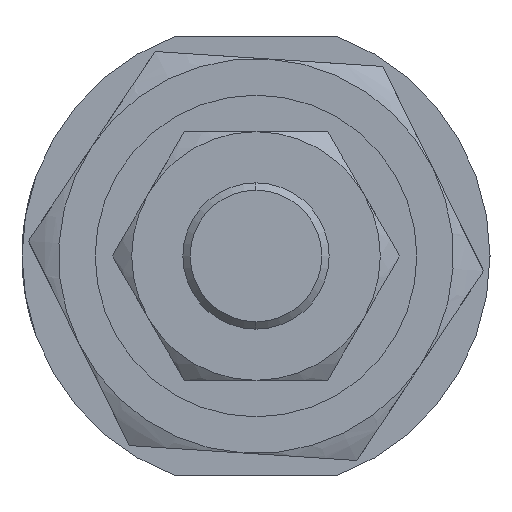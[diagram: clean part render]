
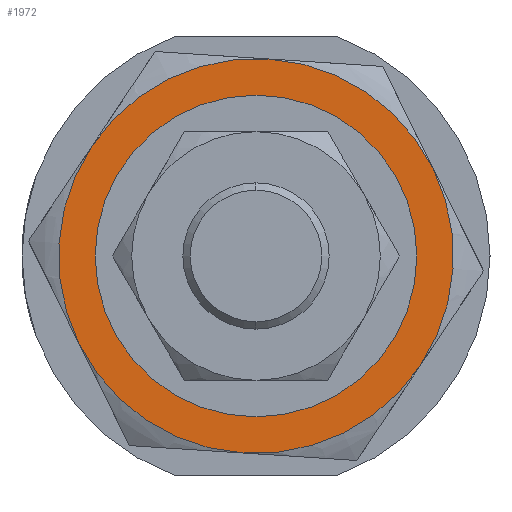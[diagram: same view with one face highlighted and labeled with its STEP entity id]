
A CAD part, left-side view. The second image highlights one B-rep face of the part: STEP entity #1972.
In plain terms, the highlighted planar face has unit normal (-1, 0, 0) as drawn and (0, 0, -1) by its records, which use the part's own axes.
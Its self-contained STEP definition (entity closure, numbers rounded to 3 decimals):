
#32 = CIRCLE ( 'NONE', #2925, 13.5 ) ;
#45 = CARTESIAN_POINT ( 'NONE',  ( 13.5, 0., -5. ) ) ;
#53 = CARTESIAN_POINT ( 'NONE',  ( -13.5, 0., -5. ) ) ;
#87 = EDGE_CURVE ( 'NONE', #1743, #1116, #2633, .T. ) ;
#129 = DIRECTION ( 'NONE',  ( 0., 0., 1. ) ) ;
#219 = DIRECTION ( 'NONE',  ( 1., 0., 0. ) ) ;
#221 = CARTESIAN_POINT ( 'NONE',  ( 6.75, -11.691, -5. ) ) ;
#243 = CARTESIAN_POINT ( 'NONE',  ( -6.75, -11.691, -5. ) ) ;
#251 = ORIENTED_EDGE ( 'NONE', *, *, #87, .F. ) ;
#267 = FACE_BOUND ( 'NONE', #2687, .T. ) ;
#274 = AXIS2_PLACEMENT_3D ( 'NONE', #1962, #2665, #750 ) ;
#286 = CARTESIAN_POINT ( 'NONE',  ( 0., 0., -5. ) ) ;
#296 = CIRCLE ( 'NONE', #2602, 13.5 ) ;
#305 = ORIENTED_EDGE ( 'NONE', *, *, #2932, .F. ) ;
#430 = EDGE_CURVE ( 'NONE', #1116, #1308, #32, .T. ) ;
#483 = VERTEX_POINT ( 'NONE', #243 ) ;
#489 = CARTESIAN_POINT ( 'NONE',  ( -6.75, 11.691, -5. ) ) ;
#519 = EDGE_CURVE ( 'NONE', #1308, #483, #1678, .T. ) ;
#544 = CARTESIAN_POINT ( 'NONE',  ( -10., 0., -5. ) ) ;
#621 = EDGE_CURVE ( 'NONE', #1583, #2821, #1857, .T. ) ;
#652 = AXIS2_PLACEMENT_3D ( 'NONE', #286, #2864, #2132 ) ;
#696 = DIRECTION ( 'NONE',  ( 1., 0., 0. ) ) ;
#713 = AXIS2_PLACEMENT_3D ( 'NONE', #2409, #3141, #219 ) ;
#715 = DIRECTION ( 'NONE',  ( 0., 0., 1. ) ) ;
#731 = CARTESIAN_POINT ( 'NONE',  ( 0., 0., -5. ) ) ;
#750 = DIRECTION ( 'NONE',  ( 1., 0., 0. ) ) ;
#781 = AXIS2_PLACEMENT_3D ( 'NONE', #1804, #1328, #1837 ) ;
#809 = FACE_OUTER_BOUND ( 'NONE', #947, .T. ) ;
#844 = VERTEX_POINT ( 'NONE', #45 ) ;
#884 = CARTESIAN_POINT ( 'NONE',  ( 10., 0., -5. ) ) ;
#947 = EDGE_LOOP ( 'NONE', ( #305, #2109, #2921, #1377, #1159, #251 ) ) ;
#984 = DIRECTION ( 'NONE',  ( 1., 0., 0. ) ) ;
#1111 = EDGE_CURVE ( 'NONE', #1425, #844, #1184, .T. ) ;
#1115 = CARTESIAN_POINT ( 'NONE',  ( 0., 0., -5. ) ) ;
#1116 = VERTEX_POINT ( 'NONE', #489 ) ;
#1148 = CARTESIAN_POINT ( 'NONE',  ( 0., 0., -5. ) ) ;
#1159 = ORIENTED_EDGE ( 'NONE', *, *, #430, .F. ) ;
#1184 = CIRCLE ( 'NONE', #1643, 13.5 ) ;
#1308 = VERTEX_POINT ( 'NONE', #53 ) ;
#1328 = DIRECTION ( 'NONE',  ( 0., 0., 1. ) ) ;
#1377 = ORIENTED_EDGE ( 'NONE', *, *, #519, .F. ) ;
#1425 = VERTEX_POINT ( 'NONE', #221 ) ;
#1481 = EDGE_CURVE ( 'NONE', #2821, #1583, #1554, .T. ) ;
#1513 = EDGE_CURVE ( 'NONE', #483, #1425, #1601, .T. ) ;
#1554 = CIRCLE ( 'NONE', #2559, 10. ) ;
#1583 = VERTEX_POINT ( 'NONE', #884 ) ;
#1601 = CIRCLE ( 'NONE', #652, 13.5 ) ;
#1628 = DIRECTION ( 'NONE',  ( 0., 0., 1. ) ) ;
#1643 = AXIS2_PLACEMENT_3D ( 'NONE', #2185, #715, #984 ) ;
#1676 = DIRECTION ( 'NONE',  ( 1., 0., 0. ) ) ;
#1678 = CIRCLE ( 'NONE', #713, 13.5 ) ;
#1743 = VERTEX_POINT ( 'NONE', #2650 ) ;
#1804 = CARTESIAN_POINT ( 'NONE',  ( 0., 0., -5. ) ) ;
#1837 = DIRECTION ( 'NONE',  ( 1., 0., 0. ) ) ;
#1857 = CIRCLE ( 'NONE', #2475, 10. ) ;
#1907 = DIRECTION ( 'NONE',  ( 0., 0., 1. ) ) ;
#1941 = DIRECTION ( 'NONE',  ( 1., 0., 0. ) ) ;
#1962 = CARTESIAN_POINT ( 'NONE',  ( 0., 0., -5. ) ) ;
#1972 = ADVANCED_FACE ( 'NONE', ( #267, #809 ), #2936, .F. ) ;
#2036 = ORIENTED_EDGE ( 'NONE', *, *, #1481, .T. ) ;
#2109 = ORIENTED_EDGE ( 'NONE', *, *, #1111, .F. ) ;
#2132 = DIRECTION ( 'NONE',  ( 1., 0., 0. ) ) ;
#2185 = CARTESIAN_POINT ( 'NONE',  ( 0., 0., -5. ) ) ;
#2409 = CARTESIAN_POINT ( 'NONE',  ( 0., 0., -5. ) ) ;
#2475 = AXIS2_PLACEMENT_3D ( 'NONE', #1148, #1628, #696 ) ;
#2559 = AXIS2_PLACEMENT_3D ( 'NONE', #731, #129, #1941 ) ;
#2602 = AXIS2_PLACEMENT_3D ( 'NONE', #1115, #2876, #2656 ) ;
#2610 = ORIENTED_EDGE ( 'NONE', *, *, #621, .T. ) ;
#2633 = CIRCLE ( 'NONE', #781, 13.5 ) ;
#2650 = CARTESIAN_POINT ( 'NONE',  ( 6.75, 11.691, -5. ) ) ;
#2656 = DIRECTION ( 'NONE',  ( 1., 0., 0. ) ) ;
#2665 = DIRECTION ( 'NONE',  ( 0., 0., 1. ) ) ;
#2687 = EDGE_LOOP ( 'NONE', ( #2610, #2036 ) ) ;
#2821 = VERTEX_POINT ( 'NONE', #544 ) ;
#2864 = DIRECTION ( 'NONE',  ( 0., 0., 1. ) ) ;
#2876 = DIRECTION ( 'NONE',  ( 0., 0., 1. ) ) ;
#2921 = ORIENTED_EDGE ( 'NONE', *, *, #1513, .F. ) ;
#2925 = AXIS2_PLACEMENT_3D ( 'NONE', #3083, #1907, #1676 ) ;
#2932 = EDGE_CURVE ( 'NONE', #844, #1743, #296, .T. ) ;
#2936 = PLANE ( 'NONE',  #274 ) ;
#3083 = CARTESIAN_POINT ( 'NONE',  ( 0., 0., -5. ) ) ;
#3141 = DIRECTION ( 'NONE',  ( 0., 0., 1. ) ) ;
